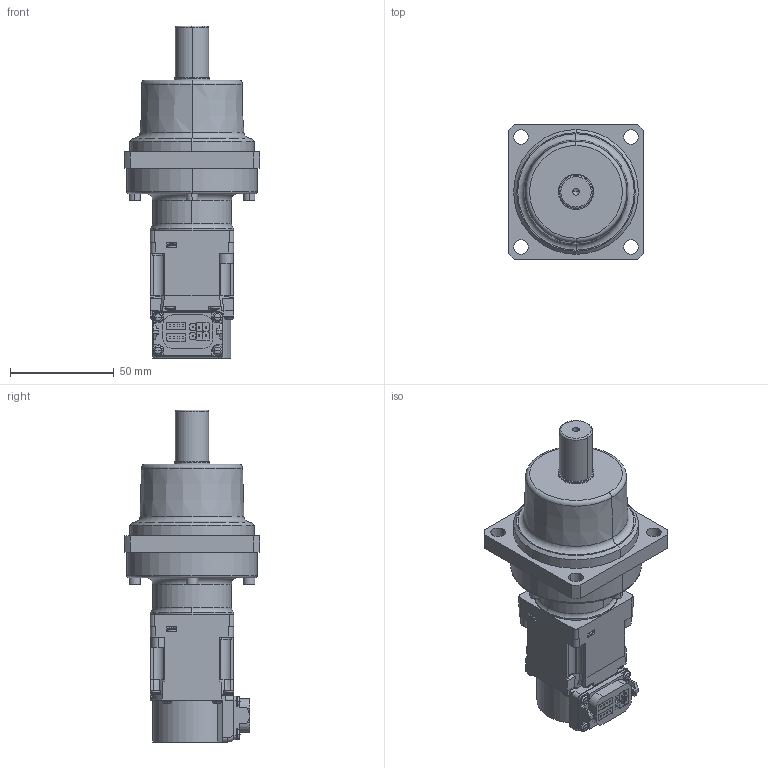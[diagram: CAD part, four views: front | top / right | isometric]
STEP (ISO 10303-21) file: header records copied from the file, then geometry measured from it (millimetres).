
FILE_DESCRIPTION((''),'2;1');
FILE_NAME('BC70092_HK-KT053WG1-K6505','2019-06-14T',('PC0760'),(''),'CREO PARAMETRIC BY PTC INC, 2017020','CREO PARAMETRIC BY PTC INC, 2017020','');
FILE_SCHEMA(('CONFIG_CONTROL_DESIGN'));
Length unit declared in the file: millimetre
Products named in the file (1): BC70092_HK-KT053WG1-K6505
Bounding box: 65 x 65 x 159.7 mm (x, y, z)
Volume: 257464.1 mm3; surface area: 33760.5 mm2
Topology: 1 solids, 1 shells, 543 faces, 1392 edges, 868 vertices
Faces by surface type: plane 276, cylinder 169, torus 48, sphere 32, bspline 12, cone 6
Entity records: 16689 total; most frequent: CARTESIAN_POINT 3297, DIRECTION 2893, ORIENTED_EDGE 2716, EDGE_CURVE 1358, AXIS2_PLACEMENT_3D 1030, VERTEX_POINT 868, VECTOR 833, LINE 833
